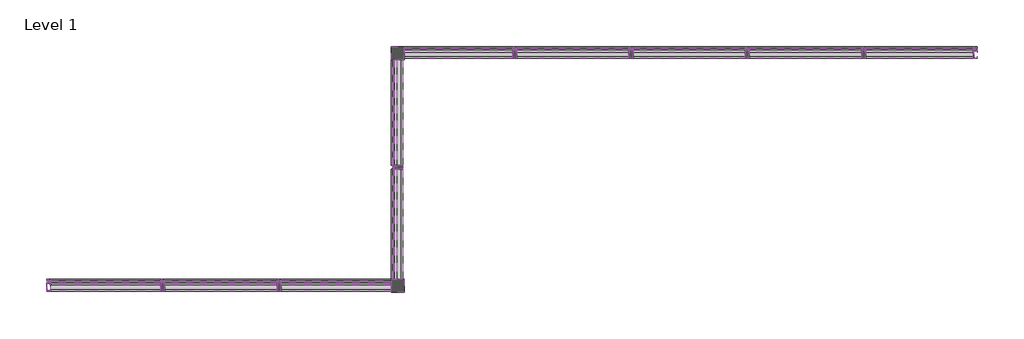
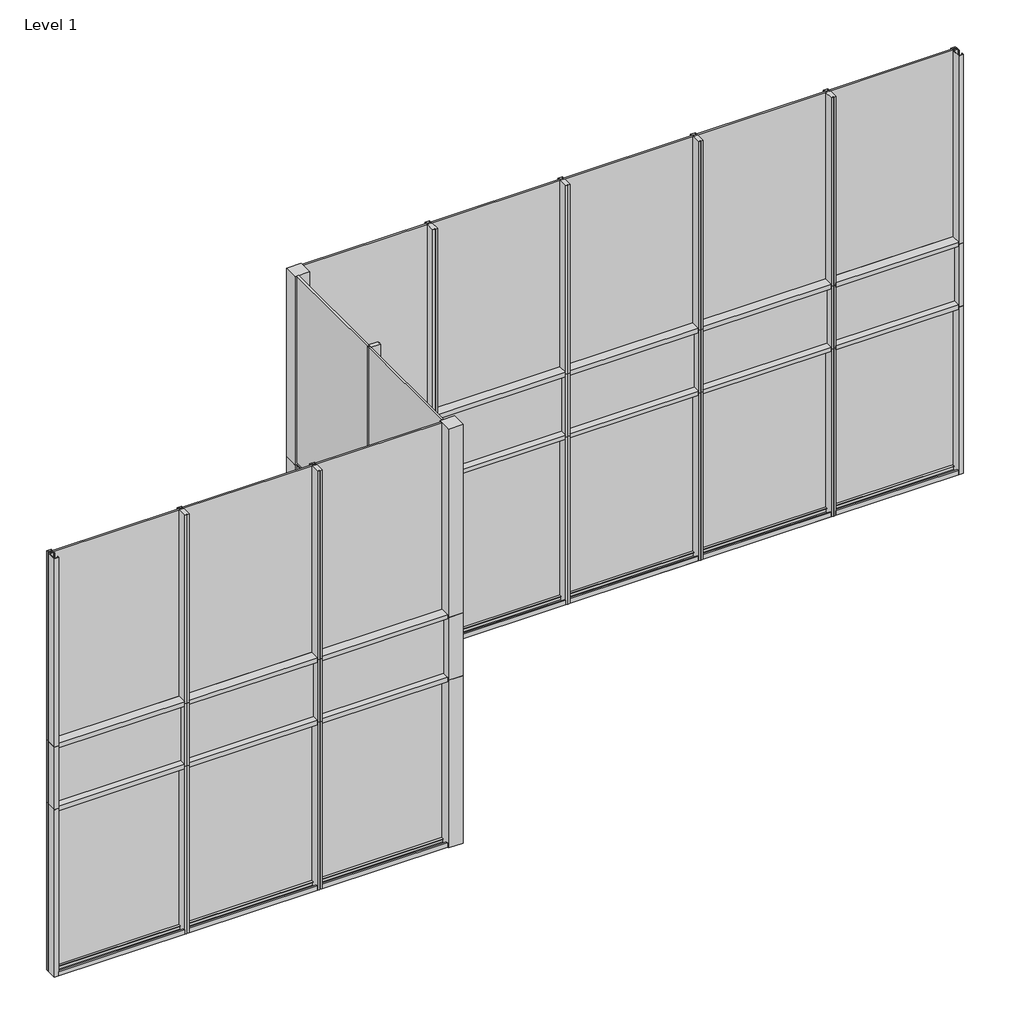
# One storey: 63 members, 30 plates.
"""IFC4 building model written with IfcOpenShell, lengths in millimetres."""

from ifc_helpers import new_model, si_unit, origin, place, context, project, spatial, transform, mapped, element, save
from components import member_aa6b0ad5, member_3b08af80, member_cb5fe1db, member_a9b10072, member_986474d6, member_d3c65e58, rectangular_mullion_captured_open_back_bbfb2c0f, rectangular_mullion_captured_open_back_cc8713bb, rectangular_mullion_captured_open_back_16a1f242, rectangular_mullion_captured_open_back_21070717, rectangular_mullion_captured_open_back_95a6e40a, rectangular_mullion_captured_open_back_a8ff4117, rectangular_mullion_captured_open_back_d715ee20, rectangular_mullion_captured_open_back_d6f5ffe3, rectangular_mullion_captured_open_back_de788541, rectangular_mullion_captured_open_back_1b6652f4, rectangular_mullion_captured_open_back_d5d2025a, rectangular_mullion_captured_open_back_45026f06, rectangular_mullion_captured_vertical_stack_a3d0fc89, rectangular_mullion_captured_vertical_stack_28bbe6cc, rectangular_mullion_captured_vertical_stack_e6b217ad, rectangular_mullion_ssg_horizontal_tube_2a7c2b05, rectangular_mullion_ssg_horizontal_tube_14686918, rectangular_mullion_ssg_horizontal_tube_24e7f777, rectangular_mullion_ssg_horizontal_tube_1dac9a05, rectangular_mullion_ssg_horizontal_tube_914c9095, rectangular_mullion_ssg_horizontal_tube_d552dfa0, rectangular_mullion_ssg_vertical_stack_41dd6339, rectangular_mullion_ssg_vertical_stack_b657639e, rectangular_mullion_ssg_vertical_stack_c531deef, system_panel_glazed_c847f2b6, system_panel_glazed_13d95e58, system_panel_glazed_7b0bdca2, system_panel_glazed_3cc53457, system_panel_glazed_d5b91e72, system_panel_glazed_41349d7e, system_panel_glazed_02823afe, system_panel_glazed_b5fa263a, system_panel_glazed_71145930, system_panel_glazed_a975786e, system_panel_glazed_e8eba25c, system_panel_glazed_5206559f, system_panel_glazed_823fbb8e, system_panel_glazed_96820018, system_panel_solid_de8e760c, system_panel_solid_f70b4fc8, system_panel_solid_5893c934, system_panel_solid_501921c6, system_panel_solid_62af6a1f, system_panel_solid_f679d4a3, system_panel_solid_14d17a46

model = new_model("IFC4")

# Units and contexts
model_context = context("Model", 3, world=origin())
ifc_project = project(units=[si_unit("LENGTHUNIT", "METRE", prefix="MILLI")], contexts=[model_context])

# Site, building, storey
site = spatial("IfcSite", under=ifc_project)
building = spatial("IfcBuilding", under=site)
storey = spatial("IfcBuildingStorey", under=building, Name="Level 1", Elevation=0.0)

# Members
placement = place(None, origin())
member_shape = member_aa6b0ad5(model_context)
element("IfcMember", 1, ObjectType="Quad Corner Mullion : 5\" x 5\" Quad Corner", at=placement, inside=storey, context=model_context, shape_type="MappedRepresentation", body=[
    mapped(member_shape, transform((3333.37735, 5420.4369427, 2438.4), x_axis=(0.0, 1.0, 0.0), y_axis=(1.0, 0.0, 0.0), z_axis=(0.0, 0.0, -1.0))),
])
member_2_shape = member_3b08af80(model_context)
element("IfcMember", 2, ObjectType="Quad Corner Mullion : 5\" x 5\" Quad Corner", at=placement, inside=storey, context=model_context, shape_type="MappedRepresentation", body=[
    mapped(member_2_shape, transform((3333.37735, 5420.4369427, 3352.8), x_axis=(0.0, 1.0, 0.0), y_axis=(1.0, 0.0, 0.0), z_axis=(0.0, 0.0, -1.0))),
])
member_3_shape = member_cb5fe1db(model_context)
element("IfcMember", 3, ObjectType="Quad Corner Mullion : 5\" x 5\" Quad Corner", at=placement, inside=storey, context=model_context, shape_type="MappedRepresentation", body=[
    mapped(member_3_shape, transform((3333.37735, 5420.4369427, 0.0), x_axis=(0.0, 1.0, 0.0), y_axis=(1.0, 0.0, 0.0), z_axis=(0.0, 0.0, -1.0))),
])
member_4_shape = member_a9b10072(model_context)
element("IfcMember", 4, ObjectType="Quad Corner Mullion : 5\" x 5\" Quad Corner", at=placement, inside=storey, context=model_context, shape_type="MappedRepresentation", body=[
    mapped(member_4_shape, transform((3333.37735, 1762.8369427, 0.0), x_axis=(1.0, 0.0, 0.0), y_axis=(0.0, -1.0, 0.0), z_axis=(0.0, 0.0, -1.0))),
])
member_5_shape = member_986474d6(model_context)
element("IfcMember", 5, ObjectType="Quad Corner Mullion : 5\" x 5\" Quad Corner", at=placement, inside=storey, context=model_context, shape_type="MappedRepresentation", body=[
    mapped(member_5_shape, transform((3333.37735, 1762.8369427, 2438.4), x_axis=(1.0, 0.0, 0.0), y_axis=(0.0, -1.0, 0.0), z_axis=(0.0, 0.0, -1.0))),
])
member_6_shape = member_d3c65e58(model_context)
element("IfcMember", 6, ObjectType="Quad Corner Mullion : 5\" x 5\" Quad Corner", at=placement, inside=storey, context=model_context, shape_type="MappedRepresentation", body=[
    mapped(member_6_shape, transform((3333.37735, 1762.8369427, 3352.8), x_axis=(1.0, 0.0, 0.0), y_axis=(0.0, -1.0, 0.0), z_axis=(0.0, 0.0, -1.0))),
])
rectangular_mullion_captured_open_back_shape = rectangular_mullion_captured_open_back_bbfb2c0f(model_context)
element("IfcMember", 7, ObjectType="Rectangular Mullion : Captured Open Back", at=placement, inside=storey, context=model_context, shape_type="MappedRepresentation", body=[
    mapped(rectangular_mullion_captured_open_back_shape, transform((12477.37735, 5420.4369427, 3352.8), x_axis=(1.0, 0.0, 0.0), y_axis=(0.0, -1.0, 0.0), z_axis=(0.0, 0.0, -1.0))),
])
rectangular_mullion_captured_open_back_2_shape = rectangular_mullion_captured_open_back_cc8713bb(model_context)
element("IfcMember", 8, ObjectType="Rectangular Mullion : Captured Open Back", at=placement, inside=storey, context=model_context, shape_type="MappedRepresentation", body=[
    mapped(rectangular_mullion_captured_open_back_2_shape, transform((12477.37735, 5420.4369427, 2438.4), x_axis=(1.0, 0.0, 0.0), y_axis=(0.0, -1.0, 0.0), z_axis=(0.0, 0.0, -1.0))),
])
rectangular_mullion_captured_open_back_3_shape = rectangular_mullion_captured_open_back_16a1f242(model_context)
element("IfcMember", 9, ObjectType="Rectangular Mullion : Captured Open Back", at=placement, inside=storey, context=model_context, shape_type="MappedRepresentation", body=[
    mapped(rectangular_mullion_captured_open_back_3_shape, transform((8892.8377322, 5420.4369427, 0.0), x_axis=(0.0, 0.0, -1.0), y_axis=(0.0, -1.0, 0.0), z_axis=(-1.0, 0.0, 0.0))),
])
element("IfcMember", 10, ObjectType="Rectangular Mullion : Captured Open Back", at=placement, inside=storey, context=model_context, shape_type="MappedRepresentation", body=[
    mapped(rectangular_mullion_captured_open_back_3_shape, transform((7064.0377322, 5420.4369427, 0.0), x_axis=(0.0, 0.0, -1.0), y_axis=(0.0, -1.0, 0.0), z_axis=(-1.0, 0.0, 0.0))),
])
element("IfcMember", 11, ObjectType="Rectangular Mullion : Captured Open Back", at=placement, inside=storey, context=model_context, shape_type="MappedRepresentation", body=[
    mapped(rectangular_mullion_captured_open_back_3_shape, transform((5235.2377322, 5420.4369427, 0.0), x_axis=(0.0, 0.0, -1.0), y_axis=(0.0, -1.0, 0.0), z_axis=(-1.0, 0.0, 0.0))),
])
element("IfcMember", 12, ObjectType="Rectangular Mullion : Captured Open Back", at=placement, inside=storey, context=model_context, shape_type="MappedRepresentation", body=[
    mapped(rectangular_mullion_captured_open_back_3_shape, transform((-292.4520837, 1762.8369427, 0.0), x_axis=(0.0, 0.0, -1.0), y_axis=(0.0, -1.0, 0.0), z_axis=(-1.0, 0.0, 0.0))),
])
rectangular_mullion_captured_open_back_4_shape = rectangular_mullion_captured_open_back_21070717(model_context)
element("IfcMember", 13, ObjectType="Rectangular Mullion : Captured Open Back", at=placement, inside=storey, context=model_context, shape_type="MappedRepresentation", body=[
    mapped(rectangular_mullion_captured_open_back_4_shape, transform((10721.6377322, 5420.4369427, 0.0), x_axis=(0.0, 0.0, -1.0), y_axis=(0.0, -1.0, 0.0), z_axis=(-1.0, 0.0, 0.0))),
])
rectangular_mullion_captured_open_back_5_shape = rectangular_mullion_captured_open_back_95a6e40a(model_context)
element("IfcMember", 14, ObjectType="Rectangular Mullion : Captured Open Back", at=placement, inside=storey, context=model_context, shape_type="MappedRepresentation", body=[
    mapped(rectangular_mullion_captured_open_back_5_shape, transform((12477.37735, 5420.4369427, 0.0), x_axis=(1.0, 0.0, 0.0), y_axis=(0.0, -1.0, 0.0), z_axis=(0.0, 0.0, -1.0))),
])
rectangular_mullion_captured_open_back_6_shape = rectangular_mullion_captured_open_back_a8ff4117(model_context)
element("IfcMember", 15, ObjectType="Rectangular Mullion : Captured Open Back", at=placement, inside=storey, context=model_context, shape_type="MappedRepresentation", body=[
    mapped(rectangular_mullion_captured_open_back_6_shape, transform((-2089.5020837, 1762.8369427, 0.0), x_axis=(0.0, 0.0, -1.0), y_axis=(0.0, -1.0, 0.0), z_axis=(-1.0, 0.0, 0.0))),
])
rectangular_mullion_captured_open_back_7_shape = rectangular_mullion_captured_open_back_d715ee20(model_context)
element("IfcMember", 16, ObjectType="Rectangular Mullion : Captured Open Back", at=placement, inside=storey, context=model_context, shape_type="MappedRepresentation", body=[
    mapped(rectangular_mullion_captured_open_back_7_shape, transform((-2153.02265, 1762.8369427, 2438.4), x_axis=(-1.0, 0.0, 0.0), y_axis=(0.0, -1.0, 0.0), z_axis=(0.0, 0.0, 1.0))),
])
rectangular_mullion_captured_open_back_8_shape = rectangular_mullion_captured_open_back_d6f5ffe3(model_context)
element("IfcMember", 17, ObjectType="Rectangular Mullion : Captured Open Back", at=placement, inside=storey, context=model_context, shape_type="MappedRepresentation", body=[
    mapped(rectangular_mullion_captured_open_back_8_shape, transform((-2153.02265, 1762.8369427, 6096.0), x_axis=(-1.0, 0.0, 0.0), y_axis=(0.0, -1.0, 0.0), z_axis=(0.0, 0.0, 1.0))),
])
rectangular_mullion_captured_open_back_9_shape = rectangular_mullion_captured_open_back_de788541(model_context)
element("IfcMember", 18, ObjectType="Rectangular Mullion : Captured Open Back", at=placement, inside=storey, context=model_context, shape_type="MappedRepresentation", body=[
    mapped(rectangular_mullion_captured_open_back_9_shape, transform((-2153.02265, 1762.8369427, 3352.8), x_axis=(-1.0, 0.0, 0.0), y_axis=(0.0, -1.0, 0.0), z_axis=(0.0, 0.0, 1.0))),
])
rectangular_mullion_captured_open_back_10_shape = rectangular_mullion_captured_open_back_1b6652f4(model_context)
element("IfcMember", 19, ObjectType="Rectangular Mullion : Captured Open Back", at=placement, inside=storey, context=model_context, shape_type="MappedRepresentation", body=[
    mapped(rectangular_mullion_captured_open_back_10_shape, transform((3466.72735, 5420.4369427, 0.0), x_axis=(0.0, 0.0, -1.0), y_axis=(0.0, -1.0, 0.0), z_axis=(-1.0, 0.0, 0.0))),
])
rectangular_mullion_captured_open_back_11_shape = rectangular_mullion_captured_open_back_d5d2025a(model_context)
element("IfcMember", 20, ObjectType="Rectangular Mullion : Captured Open Back", at=placement, inside=storey, context=model_context, shape_type="MappedRepresentation", body=[
    mapped(rectangular_mullion_captured_open_back_11_shape, transform((3333.37735, 1832.6869427, 0.0), x_axis=(0.0, 0.0, -1.0), y_axis=(1.0, 0.0, 0.0), z_axis=(0.0, -1.0, 0.0))),
])
element("IfcMember", 21, ObjectType="Rectangular Mullion : Captured Open Back", at=placement, inside=storey, context=model_context, shape_type="MappedRepresentation", body=[
    mapped(rectangular_mullion_captured_open_back_11_shape, transform((1536.3479163, 1762.8369427, 0.0), x_axis=(0.0, 0.0, -1.0), y_axis=(0.0, -1.0, 0.0), z_axis=(-1.0, 0.0, 0.0))),
])
rectangular_mullion_captured_open_back_12_shape = rectangular_mullion_captured_open_back_45026f06(model_context)
element("IfcMember", 22, ObjectType="Rectangular Mullion : Captured Open Back", at=placement, inside=storey, context=model_context, shape_type="MappedRepresentation", body=[
    mapped(rectangular_mullion_captured_open_back_12_shape, transform((3333.37735, 3623.4075089, 0.0), x_axis=(0.0, 0.0, -1.0), y_axis=(1.0, 0.0, 0.0), z_axis=(0.0, -1.0, 0.0))),
])
rectangular_mullion_captured_vertical_stack_shape = rectangular_mullion_captured_vertical_stack_a3d0fc89(model_context)
element("IfcMember", 23, ObjectType="Rectangular Mullion : Captured Vertical Stack", at=placement, inside=storey, context=model_context, shape_type="MappedRepresentation", body=[
    mapped(rectangular_mullion_captured_vertical_stack_shape, transform((10689.867166, 5420.4369427, 2438.4), x_axis=(1.0, 0.0, 0.0), y_axis=(0.0, -1.0, 0.0), z_axis=(0.0, 0.0, -1.0))),
])
element("IfcMember", 24, ObjectType="Rectangular Mullion : Captured Vertical Stack", at=placement, inside=storey, context=model_context, shape_type="MappedRepresentation", body=[
    mapped(rectangular_mullion_captured_vertical_stack_shape, transform((5203.467166, 5420.4369427, 2438.4), x_axis=(1.0, 0.0, 0.0), y_axis=(0.0, -1.0, 0.0), z_axis=(0.0, 0.0, -1.0))),
])
element("IfcMember", 25, ObjectType="Rectangular Mullion : Captured Vertical Stack", at=placement, inside=storey, context=model_context, shape_type="MappedRepresentation", body=[
    mapped(rectangular_mullion_captured_vertical_stack_shape, transform((7032.267166, 5420.4369427, 2438.4), x_axis=(1.0, 0.0, 0.0), y_axis=(0.0, -1.0, 0.0), z_axis=(0.0, 0.0, -1.0))),
])
element("IfcMember", 26, ObjectType="Rectangular Mullion : Captured Vertical Stack", at=placement, inside=storey, context=model_context, shape_type="MappedRepresentation", body=[
    mapped(rectangular_mullion_captured_vertical_stack_shape, transform((8861.067166, 5420.4369427, 2438.4), x_axis=(1.0, 0.0, 0.0), y_axis=(0.0, -1.0, 0.0), z_axis=(0.0, 0.0, -1.0))),
])
element("IfcMember", 27, ObjectType="Rectangular Mullion : Captured Vertical Stack", at=placement, inside=storey, context=model_context, shape_type="MappedRepresentation", body=[
    mapped(rectangular_mullion_captured_vertical_stack_shape, transform((1504.57735, 1762.8369427, 2438.4), x_axis=(1.0, 0.0, 0.0), y_axis=(0.0, -1.0, 0.0), z_axis=(0.0, 0.0, -1.0))),
])
element("IfcMember", 28, ObjectType="Rectangular Mullion : Captured Vertical Stack", at=placement, inside=storey, context=model_context, shape_type="MappedRepresentation", body=[
    mapped(rectangular_mullion_captured_vertical_stack_shape, transform((-324.22265, 1762.8369427, 2438.4), x_axis=(1.0, 0.0, 0.0), y_axis=(0.0, -1.0, 0.0), z_axis=(0.0, 0.0, -1.0))),
])
rectangular_mullion_captured_vertical_stack_2_shape = rectangular_mullion_captured_vertical_stack_28bbe6cc(model_context)
element("IfcMember", 29, ObjectType="Rectangular Mullion : Captured Vertical Stack", at=placement, inside=storey, context=model_context, shape_type="MappedRepresentation", body=[
    mapped(rectangular_mullion_captured_vertical_stack_2_shape, transform((10689.867166, 5420.4369427, 3352.8), x_axis=(1.0, 0.0, 0.0), y_axis=(0.0, -1.0, 0.0), z_axis=(0.0, 0.0, -1.0))),
])
element("IfcMember", 30, ObjectType="Rectangular Mullion : Captured Vertical Stack", at=placement, inside=storey, context=model_context, shape_type="MappedRepresentation", body=[
    mapped(rectangular_mullion_captured_vertical_stack_2_shape, transform((5203.467166, 5420.4369427, 3352.8), x_axis=(1.0, 0.0, 0.0), y_axis=(0.0, -1.0, 0.0), z_axis=(0.0, 0.0, -1.0))),
])
element("IfcMember", 31, ObjectType="Rectangular Mullion : Captured Vertical Stack", at=placement, inside=storey, context=model_context, shape_type="MappedRepresentation", body=[
    mapped(rectangular_mullion_captured_vertical_stack_2_shape, transform((7032.267166, 5420.4369427, 3352.8), x_axis=(1.0, 0.0, 0.0), y_axis=(0.0, -1.0, 0.0), z_axis=(0.0, 0.0, -1.0))),
])
element("IfcMember", 32, ObjectType="Rectangular Mullion : Captured Vertical Stack", at=placement, inside=storey, context=model_context, shape_type="MappedRepresentation", body=[
    mapped(rectangular_mullion_captured_vertical_stack_2_shape, transform((8861.067166, 5420.4369427, 3352.8), x_axis=(1.0, 0.0, 0.0), y_axis=(0.0, -1.0, 0.0), z_axis=(0.0, 0.0, -1.0))),
])
element("IfcMember", 33, ObjectType="Rectangular Mullion : Captured Vertical Stack", at=placement, inside=storey, context=model_context, shape_type="MappedRepresentation", body=[
    mapped(rectangular_mullion_captured_vertical_stack_2_shape, transform((1504.57735, 1762.8369427, 3352.8), x_axis=(1.0, 0.0, 0.0), y_axis=(0.0, -1.0, 0.0), z_axis=(0.0, 0.0, -1.0))),
])
element("IfcMember", 34, ObjectType="Rectangular Mullion : Captured Vertical Stack", at=placement, inside=storey, context=model_context, shape_type="MappedRepresentation", body=[
    mapped(rectangular_mullion_captured_vertical_stack_2_shape, transform((-324.22265, 1762.8369427, 3352.8), x_axis=(1.0, 0.0, 0.0), y_axis=(0.0, -1.0, 0.0), z_axis=(0.0, 0.0, -1.0))),
])
rectangular_mullion_captured_vertical_stack_3_shape = rectangular_mullion_captured_vertical_stack_e6b217ad(model_context)
element("IfcMember", 35, ObjectType="Rectangular Mullion : Captured Vertical Stack", at=placement, inside=storey, context=model_context, shape_type="MappedRepresentation", body=[
    mapped(rectangular_mullion_captured_vertical_stack_3_shape, transform((10689.867166, 5420.4369427, 0.0), x_axis=(1.0, 0.0, 0.0), y_axis=(0.0, -1.0, 0.0), z_axis=(0.0, 0.0, -1.0))),
])
element("IfcMember", 36, ObjectType="Rectangular Mullion : Captured Vertical Stack", at=placement, inside=storey, context=model_context, shape_type="MappedRepresentation", body=[
    mapped(rectangular_mullion_captured_vertical_stack_3_shape, transform((5203.467166, 5420.4369427, 0.0), x_axis=(1.0, 0.0, 0.0), y_axis=(0.0, -1.0, 0.0), z_axis=(0.0, 0.0, -1.0))),
])
element("IfcMember", 37, ObjectType="Rectangular Mullion : Captured Vertical Stack", at=placement, inside=storey, context=model_context, shape_type="MappedRepresentation", body=[
    mapped(rectangular_mullion_captured_vertical_stack_3_shape, transform((7032.267166, 5420.4369427, 0.0), x_axis=(1.0, 0.0, 0.0), y_axis=(0.0, -1.0, 0.0), z_axis=(0.0, 0.0, -1.0))),
])
element("IfcMember", 38, ObjectType="Rectangular Mullion : Captured Vertical Stack", at=placement, inside=storey, context=model_context, shape_type="MappedRepresentation", body=[
    mapped(rectangular_mullion_captured_vertical_stack_3_shape, transform((8861.067166, 5420.4369427, 0.0), x_axis=(1.0, 0.0, 0.0), y_axis=(0.0, -1.0, 0.0), z_axis=(0.0, 0.0, -1.0))),
])
element("IfcMember", 39, ObjectType="Rectangular Mullion : Captured Vertical Stack", at=placement, inside=storey, context=model_context, shape_type="MappedRepresentation", body=[
    mapped(rectangular_mullion_captured_vertical_stack_3_shape, transform((1504.57735, 1762.8369427, 0.0), x_axis=(1.0, 0.0, 0.0), y_axis=(0.0, -1.0, 0.0), z_axis=(0.0, 0.0, -1.0))),
])
element("IfcMember", 40, ObjectType="Rectangular Mullion : Captured Vertical Stack", at=placement, inside=storey, context=model_context, shape_type="MappedRepresentation", body=[
    mapped(rectangular_mullion_captured_vertical_stack_3_shape, transform((-324.22265, 1762.8369427, 0.0), x_axis=(1.0, 0.0, 0.0), y_axis=(0.0, -1.0, 0.0), z_axis=(0.0, 0.0, -1.0))),
])
rectangular_mullion_ssg_horizontal_tube_shape = rectangular_mullion_ssg_horizontal_tube_2a7c2b05(model_context)
element("IfcMember", 41, ObjectType="Rectangular Mullion : SSG Horizontal Tube", at=placement, inside=storey, context=model_context, shape_type="MappedRepresentation", body=[
    mapped(rectangular_mullion_ssg_horizontal_tube_shape, transform((8829.317166, 5420.4369427, 2438.4), x_axis=(0.0, 0.0, 1.0), y_axis=(0.0, -1.0, 0.0), z_axis=(1.0, 0.0, 0.0))),
])
element("IfcMember", 42, ObjectType="Rectangular Mullion : SSG Horizontal Tube", at=placement, inside=storey, context=model_context, shape_type="MappedRepresentation", body=[
    mapped(rectangular_mullion_ssg_horizontal_tube_shape, transform((7000.517166, 5420.4369427, 2438.4), x_axis=(0.0, 0.0, 1.0), y_axis=(0.0, -1.0, 0.0), z_axis=(1.0, 0.0, 0.0))),
])
element("IfcMember", 43, ObjectType="Rectangular Mullion : SSG Horizontal Tube", at=placement, inside=storey, context=model_context, shape_type="MappedRepresentation", body=[
    mapped(rectangular_mullion_ssg_horizontal_tube_shape, transform((10658.117166, 5420.4369427, 2438.4), x_axis=(0.0, 0.0, 1.0), y_axis=(0.0, -1.0, 0.0), z_axis=(1.0, 0.0, 0.0))),
])
element("IfcMember", 44, ObjectType="Rectangular Mullion : SSG Horizontal Tube", at=placement, inside=storey, context=model_context, shape_type="MappedRepresentation", body=[
    mapped(rectangular_mullion_ssg_horizontal_tube_shape, transform((7000.517166, 5420.4369427, 3352.8), x_axis=(0.0, 0.0, 1.0), y_axis=(0.0, -1.0, 0.0), z_axis=(1.0, 0.0, 0.0))),
])
element("IfcMember", 45, ObjectType="Rectangular Mullion : SSG Horizontal Tube", at=placement, inside=storey, context=model_context, shape_type="MappedRepresentation", body=[
    mapped(rectangular_mullion_ssg_horizontal_tube_shape, transform((10658.117166, 5420.4369427, 3352.8), x_axis=(0.0, 0.0, 1.0), y_axis=(0.0, -1.0, 0.0), z_axis=(1.0, 0.0, 0.0))),
])
element("IfcMember", 46, ObjectType="Rectangular Mullion : SSG Horizontal Tube", at=placement, inside=storey, context=model_context, shape_type="MappedRepresentation", body=[
    mapped(rectangular_mullion_ssg_horizontal_tube_shape, transform((8829.317166, 5420.4369427, 3352.8), x_axis=(0.0, 0.0, 1.0), y_axis=(0.0, -1.0, 0.0), z_axis=(1.0, 0.0, 0.0))),
])
element("IfcMember", 47, ObjectType="Rectangular Mullion : SSG Horizontal Tube", at=placement, inside=storey, context=model_context, shape_type="MappedRepresentation", body=[
    mapped(rectangular_mullion_ssg_horizontal_tube_shape, transform((1472.82735, 1762.8369427, 2438.4), x_axis=(0.0, 0.0, 1.0), y_axis=(0.0, -1.0, 0.0), z_axis=(1.0, 0.0, 0.0))),
])
element("IfcMember", 48, ObjectType="Rectangular Mullion : SSG Horizontal Tube", at=placement, inside=storey, context=model_context, shape_type="MappedRepresentation", body=[
    mapped(rectangular_mullion_ssg_horizontal_tube_shape, transform((1472.82735, 1762.8369427, 3352.8), x_axis=(0.0, 0.0, 1.0), y_axis=(0.0, -1.0, 0.0), z_axis=(1.0, 0.0, 0.0))),
])
rectangular_mullion_ssg_horizontal_tube_2_shape = rectangular_mullion_ssg_horizontal_tube_14686918(model_context)
element("IfcMember", 49, ObjectType="Rectangular Mullion : SSG Horizontal Tube", at=placement, inside=storey, context=model_context, shape_type="MappedRepresentation", body=[
    mapped(rectangular_mullion_ssg_horizontal_tube_2_shape, transform((12413.8567838, 5420.4369427, 2438.4), x_axis=(0.0, 0.0, 1.0), y_axis=(0.0, -1.0, 0.0), z_axis=(1.0, 0.0, 0.0))),
])
element("IfcMember", 50, ObjectType="Rectangular Mullion : SSG Horizontal Tube", at=placement, inside=storey, context=model_context, shape_type="MappedRepresentation", body=[
    mapped(rectangular_mullion_ssg_horizontal_tube_2_shape, transform((12413.8567838, 5420.4369427, 3352.8), x_axis=(0.0, 0.0, 1.0), y_axis=(0.0, -1.0, 0.0), z_axis=(1.0, 0.0, 0.0))),
])
rectangular_mullion_ssg_horizontal_tube_3_shape = rectangular_mullion_ssg_horizontal_tube_24e7f777(model_context)
element("IfcMember", 51, ObjectType="Rectangular Mullion : SSG Horizontal Tube", at=placement, inside=storey, context=model_context, shape_type="MappedRepresentation", body=[
    mapped(rectangular_mullion_ssg_horizontal_tube_3_shape, transform((-355.97265, 1762.8369427, 2438.4), x_axis=(0.0, 0.0, 1.0), y_axis=(0.0, -1.0, 0.0), z_axis=(1.0, 0.0, 0.0))),
])
element("IfcMember", 52, ObjectType="Rectangular Mullion : SSG Horizontal Tube", at=placement, inside=storey, context=model_context, shape_type="MappedRepresentation", body=[
    mapped(rectangular_mullion_ssg_horizontal_tube_3_shape, transform((-355.97265, 1762.8369427, 3352.8), x_axis=(0.0, 0.0, 1.0), y_axis=(0.0, -1.0, 0.0), z_axis=(1.0, 0.0, 0.0))),
])
rectangular_mullion_ssg_horizontal_tube_4_shape = rectangular_mullion_ssg_horizontal_tube_1dac9a05(model_context)
element("IfcMember", 53, ObjectType="Rectangular Mullion : SSG Horizontal Tube", at=placement, inside=storey, context=model_context, shape_type="MappedRepresentation", body=[
    mapped(rectangular_mullion_ssg_horizontal_tube_4_shape, transform((5171.717166, 5420.4369427, 2438.4), x_axis=(0.0, 0.0, 1.0), y_axis=(0.0, -1.0, 0.0), z_axis=(1.0, 0.0, 0.0))),
])
element("IfcMember", 54, ObjectType="Rectangular Mullion : SSG Horizontal Tube", at=placement, inside=storey, context=model_context, shape_type="MappedRepresentation", body=[
    mapped(rectangular_mullion_ssg_horizontal_tube_4_shape, transform((5171.717166, 5420.4369427, 3352.8), x_axis=(0.0, 0.0, 1.0), y_axis=(0.0, -1.0, 0.0), z_axis=(1.0, 0.0, 0.0))),
])
rectangular_mullion_ssg_horizontal_tube_5_shape = rectangular_mullion_ssg_horizontal_tube_914c9095(model_context)
element("IfcMember", 55, ObjectType="Rectangular Mullion : SSG Horizontal Tube", at=placement, inside=storey, context=model_context, shape_type="MappedRepresentation", body=[
    mapped(rectangular_mullion_ssg_horizontal_tube_5_shape, transform((3333.37735, 3559.8869427, 3352.8), x_axis=(0.0, 0.0, 1.0), y_axis=(1.0, 0.0, 0.0), z_axis=(0.0, 1.0, 0.0))),
])
element("IfcMember", 56, ObjectType="Rectangular Mullion : SSG Horizontal Tube", at=placement, inside=storey, context=model_context, shape_type="MappedRepresentation", body=[
    mapped(rectangular_mullion_ssg_horizontal_tube_5_shape, transform((3333.37735, 3559.8869427, 2438.4), x_axis=(0.0, 0.0, 1.0), y_axis=(1.0, 0.0, 0.0), z_axis=(0.0, 1.0, 0.0))),
])
element("IfcMember", 57, ObjectType="Rectangular Mullion : SSG Horizontal Tube", at=placement, inside=storey, context=model_context, shape_type="MappedRepresentation", body=[
    mapped(rectangular_mullion_ssg_horizontal_tube_5_shape, transform((3263.52735, 1762.8369427, 2438.4), x_axis=(0.0, 0.0, 1.0), y_axis=(0.0, -1.0, 0.0), z_axis=(1.0, 0.0, 0.0))),
])
element("IfcMember", 58, ObjectType="Rectangular Mullion : SSG Horizontal Tube", at=placement, inside=storey, context=model_context, shape_type="MappedRepresentation", body=[
    mapped(rectangular_mullion_ssg_horizontal_tube_5_shape, transform((3263.52735, 1762.8369427, 3352.8), x_axis=(0.0, 0.0, 1.0), y_axis=(0.0, -1.0, 0.0), z_axis=(1.0, 0.0, 0.0))),
])
rectangular_mullion_ssg_horizontal_tube_6_shape = rectangular_mullion_ssg_horizontal_tube_d552dfa0(model_context)
element("IfcMember", 59, ObjectType="Rectangular Mullion : SSG Horizontal Tube", at=placement, inside=storey, context=model_context, shape_type="MappedRepresentation", body=[
    mapped(rectangular_mullion_ssg_horizontal_tube_6_shape, transform((3333.37735, 5287.0869427, 3352.8), x_axis=(0.0, 0.0, 1.0), y_axis=(1.0, 0.0, 0.0), z_axis=(0.0, 1.0, 0.0))),
])
element("IfcMember", 60, ObjectType="Rectangular Mullion : SSG Horizontal Tube", at=placement, inside=storey, context=model_context, shape_type="MappedRepresentation", body=[
    mapped(rectangular_mullion_ssg_horizontal_tube_6_shape, transform((3333.37735, 5287.0869427, 2438.4), x_axis=(0.0, 0.0, 1.0), y_axis=(1.0, 0.0, 0.0), z_axis=(0.0, 1.0, 0.0))),
])
rectangular_mullion_ssg_vertical_stack_shape = rectangular_mullion_ssg_vertical_stack_41dd6339(model_context)
element("IfcMember", 61, ObjectType="Rectangular Mullion : SSG Vertical Stack", at=placement, inside=storey, context=model_context, shape_type="MappedRepresentation", body=[
    mapped(rectangular_mullion_ssg_vertical_stack_shape, transform((3333.37735, 3591.6369427, 2438.4), x_axis=(0.0, 1.0, 0.0), y_axis=(1.0, 0.0, 0.0), z_axis=(0.0, 0.0, -1.0))),
])
rectangular_mullion_ssg_vertical_stack_2_shape = rectangular_mullion_ssg_vertical_stack_b657639e(model_context)
element("IfcMember", 62, ObjectType="Rectangular Mullion : SSG Vertical Stack", at=placement, inside=storey, context=model_context, shape_type="MappedRepresentation", body=[
    mapped(rectangular_mullion_ssg_vertical_stack_2_shape, transform((3333.37735, 3591.6369427, 3352.8), x_axis=(0.0, 1.0, 0.0), y_axis=(1.0, 0.0, 0.0), z_axis=(0.0, 0.0, -1.0))),
])
rectangular_mullion_ssg_vertical_stack_3_shape = rectangular_mullion_ssg_vertical_stack_c531deef(model_context)
element("IfcMember", 63, ObjectType="Rectangular Mullion : SSG Vertical Stack", at=placement, inside=storey, context=model_context, shape_type="MappedRepresentation", body=[
    mapped(rectangular_mullion_ssg_vertical_stack_3_shape, transform((3333.37735, 3591.6369427, 0.0), x_axis=(0.0, 1.0, 0.0), y_axis=(1.0, 0.0, 0.0), z_axis=(0.0, 0.0, -1.0))),
])

# Plates
system_panel_glazed_shape = system_panel_glazed_c847f2b6(model_context)
element("IfcPlate", 64, ObjectType="System Panel : Glazed", at=placement, inside=storey, context=model_context, shape_type="MappedRepresentation", body=[
    mapped(system_panel_glazed_shape, transform((3333.37735, 2707.404288, 54.1413824), x_axis=(0.0, 1.0, 0.0), y_axis=(-1.0, 0.0, 0.0), z_axis=(0.0, 0.0, 1.0))),
])
system_panel_glazed_2_shape = system_panel_glazed_13d95e58(model_context)
element("IfcPlate", 65, ObjectType="System Panel : Glazed", at=placement, inside=storey, context=model_context, shape_type="MappedRepresentation", body=[
    mapped(system_panel_glazed_2_shape, transform((3333.37735, 4444.1292897, 54.1413824), x_axis=(0.0, 1.0, 0.0), y_axis=(-1.0, 0.0, 0.0), z_axis=(0.0, 0.0, 1.0))),
])
system_panel_glazed_3_shape = system_panel_glazed_7b0bdca2(model_context)
element("IfcPlate", 66, ObjectType="System Panel : Glazed", at=placement, inside=storey, context=model_context, shape_type="MappedRepresentation", body=[
    mapped(system_panel_glazed_3_shape, transform((-1222.7576163, 1762.8369427, 54.1413824), x_axis=(1.0, 0.0, 0.0), y_axis=(0.0, 1.0, 0.0), z_axis=(0.0, 0.0, 1.0))),
])
system_panel_glazed_4_shape = system_panel_glazed_3cc53457(model_context)
element("IfcPlate", 67, ObjectType="System Panel : Glazed", at=placement, inside=storey, context=model_context, shape_type="MappedRepresentation", body=[
    mapped(system_panel_glazed_4_shape, transform((4323.8916004, 5420.4369427, 54.1413824), x_axis=(1.0, 0.0, 0.0), y_axis=(0.0, 1.0, 0.0), z_axis=(0.0, 0.0, 1.0))),
])
system_panel_glazed_5_shape = system_panel_glazed_d5b91e72(model_context)
element("IfcPlate", 68, ObjectType="System Panel : Glazed", at=placement, inside=storey, context=model_context, shape_type="MappedRepresentation", body=[
    mapped(system_panel_glazed_5_shape, transform((9775.4571996, 5420.4369427, 54.1413824), x_axis=(1.0, 0.0, 0.0), y_axis=(0.0, 1.0, 0.0), z_axis=(0.0, 0.0, 1.0))),
])
element("IfcPlate", 69, ObjectType="System Panel : Glazed", at=placement, inside=storey, context=model_context, shape_type="MappedRepresentation", body=[
    mapped(system_panel_glazed_5_shape, transform((7946.6571996, 5420.4369427, 54.1413824), x_axis=(1.0, 0.0, 0.0), y_axis=(0.0, 1.0, 0.0), z_axis=(0.0, 0.0, 1.0))),
])
element("IfcPlate", 70, ObjectType="System Panel : Glazed", at=placement, inside=storey, context=model_context, shape_type="MappedRepresentation", body=[
    mapped(system_panel_glazed_5_shape, transform((6117.8571996, 5420.4369427, 54.1413824), x_axis=(1.0, 0.0, 0.0), y_axis=(0.0, 1.0, 0.0), z_axis=(0.0, 0.0, 1.0))),
])
element("IfcPlate", 71, ObjectType="System Panel : Glazed", at=placement, inside=storey, context=model_context, shape_type="MappedRepresentation", body=[
    mapped(system_panel_glazed_5_shape, transform((590.1673837, 1762.8369427, 54.1413824), x_axis=(1.0, 0.0, 0.0), y_axis=(0.0, 1.0, 0.0), z_axis=(0.0, 0.0, 1.0))),
])
system_panel_glazed_6_shape = system_panel_glazed_41349d7e(model_context)
element("IfcPlate", 72, ObjectType="System Panel : Glazed", at=placement, inside=storey, context=model_context, shape_type="MappedRepresentation", body=[
    mapped(system_panel_glazed_6_shape, transform((2395.2480412, 1762.8369427, 54.1413824), x_axis=(1.0, 0.0, 0.0), y_axis=(0.0, 1.0, 0.0), z_axis=(0.0, 0.0, 1.0))),
])
system_panel_glazed_7_shape = system_panel_glazed_02823afe(model_context)
element("IfcPlate", 73, ObjectType="System Panel : Glazed", at=placement, inside=storey, context=model_context, shape_type="MappedRepresentation", body=[
    mapped(system_panel_glazed_7_shape, transform((11567.7270085, 5420.4369427, 54.1413824), x_axis=(1.0, 0.0, 0.0), y_axis=(0.0, 1.0, 0.0), z_axis=(0.0, 0.0, 1.0))),
])
system_panel_glazed_8_shape = system_panel_glazed_b5fa263a(model_context)
element("IfcPlate", 74, ObjectType="System Panel : Glazed", at=placement, inside=storey, context=model_context, shape_type="MappedRepresentation", body=[
    mapped(system_panel_glazed_8_shape, transform((4323.8916004, 5420.4369427, 3384.5705663), x_axis=(1.0, 0.0, 0.0), y_axis=(0.0, 1.0, 0.0), z_axis=(0.0, 0.0, 1.0))),
])
system_panel_glazed_9_shape = system_panel_glazed_71145930(model_context)
element("IfcPlate", 75, ObjectType="System Panel : Glazed", at=placement, inside=storey, context=model_context, shape_type="MappedRepresentation", body=[
    mapped(system_panel_glazed_9_shape, transform((6117.8571996, 5420.4369427, 3384.5705663), x_axis=(1.0, 0.0, 0.0), y_axis=(0.0, 1.0, 0.0), z_axis=(0.0, 0.0, 1.0))),
])
element("IfcPlate", 76, ObjectType="System Panel : Glazed", at=placement, inside=storey, context=model_context, shape_type="MappedRepresentation", body=[
    mapped(system_panel_glazed_9_shape, transform((7946.6571996, 5420.4369427, 3384.5705663), x_axis=(1.0, 0.0, 0.0), y_axis=(0.0, 1.0, 0.0), z_axis=(0.0, 0.0, 1.0))),
])
element("IfcPlate", 77, ObjectType="System Panel : Glazed", at=placement, inside=storey, context=model_context, shape_type="MappedRepresentation", body=[
    mapped(system_panel_glazed_9_shape, transform((9775.4571996, 5420.4369427, 3384.5705663), x_axis=(1.0, 0.0, 0.0), y_axis=(0.0, 1.0, 0.0), z_axis=(0.0, 0.0, 1.0))),
])
element("IfcPlate", 78, ObjectType="System Panel : Glazed", at=placement, inside=storey, context=model_context, shape_type="MappedRepresentation", body=[
    mapped(system_panel_glazed_9_shape, transform((590.1673837, 1762.8369427, 3384.5705663), x_axis=(1.0, 0.0, 0.0), y_axis=(0.0, 1.0, 0.0), z_axis=(0.0, 0.0, 1.0))),
])
system_panel_glazed_10_shape = system_panel_glazed_a975786e(model_context)
element("IfcPlate", 79, ObjectType="System Panel : Glazed", at=placement, inside=storey, context=model_context, shape_type="MappedRepresentation", body=[
    mapped(system_panel_glazed_10_shape, transform((11567.7270085, 5420.4369427, 3384.5705663), x_axis=(1.0, 0.0, 0.0), y_axis=(0.0, 1.0, 0.0), z_axis=(0.0, 0.0, 1.0))),
])
system_panel_glazed_11_shape = system_panel_glazed_e8eba25c(model_context)
element("IfcPlate", 80, ObjectType="System Panel : Glazed", at=placement, inside=storey, context=model_context, shape_type="MappedRepresentation", body=[
    mapped(system_panel_glazed_11_shape, transform((3333.37735, 2707.404288, 3384.5705663), x_axis=(0.0, 1.0, 0.0), y_axis=(-1.0, 0.0, 0.0), z_axis=(0.0, 0.0, 1.0))),
])
system_panel_glazed_12_shape = system_panel_glazed_5206559f(model_context)
element("IfcPlate", 81, ObjectType="System Panel : Glazed", at=placement, inside=storey, context=model_context, shape_type="MappedRepresentation", body=[
    mapped(system_panel_glazed_12_shape, transform((3333.37735, 4444.1292897, 3384.5705663), x_axis=(0.0, 1.0, 0.0), y_axis=(-1.0, 0.0, 0.0), z_axis=(0.0, 0.0, 1.0))),
])
system_panel_glazed_13_shape = system_panel_glazed_823fbb8e(model_context)
element("IfcPlate", 82, ObjectType="System Panel : Glazed", at=placement, inside=storey, context=model_context, shape_type="MappedRepresentation", body=[
    mapped(system_panel_glazed_13_shape, transform((-1222.7576163, 1762.8369427, 3384.5705663), x_axis=(1.0, 0.0, 0.0), y_axis=(0.0, 1.0, 0.0), z_axis=(0.0, 0.0, 1.0))),
])
system_panel_glazed_14_shape = system_panel_glazed_96820018(model_context)
element("IfcPlate", 83, ObjectType="System Panel : Glazed", at=placement, inside=storey, context=model_context, shape_type="MappedRepresentation", body=[
    mapped(system_panel_glazed_14_shape, transform((2395.2480412, 1762.8369427, 3384.5705663), x_axis=(1.0, 0.0, 0.0), y_axis=(0.0, 1.0, 0.0), z_axis=(0.0, 0.0, 1.0))),
])
system_panel_solid_shape = system_panel_solid_de8e760c(model_context)
element("IfcPlate", 84, ObjectType="System Panel : Solid", at=placement, inside=storey, context=model_context, shape_type="MappedRepresentation", body=[
    mapped(system_panel_solid_shape, transform((4323.8916004, 5420.4369427, 2470.1705663), x_axis=(1.0, 0.0, 0.0), y_axis=(0.0, 1.0, 0.0), z_axis=(0.0, 0.0, 1.0))),
])
system_panel_solid_2_shape = system_panel_solid_f70b4fc8(model_context)
element("IfcPlate", 85, ObjectType="System Panel : Solid", at=placement, inside=storey, context=model_context, shape_type="MappedRepresentation", body=[
    mapped(system_panel_solid_2_shape, transform((6117.8571996, 5420.4369427, 2470.1705663), x_axis=(1.0, 0.0, 0.0), y_axis=(0.0, 1.0, 0.0), z_axis=(0.0, 0.0, 1.0))),
])
element("IfcPlate", 86, ObjectType="System Panel : Solid", at=placement, inside=storey, context=model_context, shape_type="MappedRepresentation", body=[
    mapped(system_panel_solid_2_shape, transform((7946.6571996, 5420.4369427, 2470.1705663), x_axis=(1.0, 0.0, 0.0), y_axis=(0.0, 1.0, 0.0), z_axis=(0.0, 0.0, 1.0))),
])
element("IfcPlate", 87, ObjectType="System Panel : Solid", at=placement, inside=storey, context=model_context, shape_type="MappedRepresentation", body=[
    mapped(system_panel_solid_2_shape, transform((9775.4571996, 5420.4369427, 2470.1705663), x_axis=(1.0, 0.0, 0.0), y_axis=(0.0, 1.0, 0.0), z_axis=(0.0, 0.0, 1.0))),
])
element("IfcPlate", 88, ObjectType="System Panel : Solid", at=placement, inside=storey, context=model_context, shape_type="MappedRepresentation", body=[
    mapped(system_panel_solid_2_shape, transform((590.1673837, 1762.8369427, 2470.1705663), x_axis=(1.0, 0.0, 0.0), y_axis=(0.0, 1.0, 0.0), z_axis=(0.0, 0.0, 1.0))),
])
system_panel_solid_3_shape = system_panel_solid_5893c934(model_context)
element("IfcPlate", 89, ObjectType="System Panel : Solid", at=placement, inside=storey, context=model_context, shape_type="MappedRepresentation", body=[
    mapped(system_panel_solid_3_shape, transform((11567.7270085, 5420.4369427, 2470.1705663), x_axis=(1.0, 0.0, 0.0), y_axis=(0.0, 1.0, 0.0), z_axis=(0.0, 0.0, 1.0))),
])
system_panel_solid_4_shape = system_panel_solid_501921c6(model_context)
element("IfcPlate", 90, ObjectType="System Panel : Solid", at=placement, inside=storey, context=model_context, shape_type="MappedRepresentation", body=[
    mapped(system_panel_solid_4_shape, transform((3333.37735, 2707.404288, 2470.1705663), x_axis=(0.0, 1.0, 0.0), y_axis=(-1.0, 0.0, 0.0), z_axis=(0.0, 0.0, 1.0))),
])
system_panel_solid_5_shape = system_panel_solid_62af6a1f(model_context)
element("IfcPlate", 91, ObjectType="System Panel : Solid", at=placement, inside=storey, context=model_context, shape_type="MappedRepresentation", body=[
    mapped(system_panel_solid_5_shape, transform((3333.37735, 4444.1292897, 2470.1705663), x_axis=(0.0, 1.0, 0.0), y_axis=(-1.0, 0.0, 0.0), z_axis=(0.0, 0.0, 1.0))),
])
system_panel_solid_6_shape = system_panel_solid_f679d4a3(model_context)
element("IfcPlate", 92, ObjectType="System Panel : Solid", at=placement, inside=storey, context=model_context, shape_type="MappedRepresentation", body=[
    mapped(system_panel_solid_6_shape, transform((-1222.7576163, 1762.8369427, 2470.1705663), x_axis=(1.0, 0.0, 0.0), y_axis=(0.0, 1.0, 0.0), z_axis=(0.0, 0.0, 1.0))),
])
system_panel_solid_7_shape = system_panel_solid_14d17a46(model_context)
element("IfcPlate", 93, ObjectType="System Panel : Solid", at=placement, inside=storey, context=model_context, shape_type="MappedRepresentation", body=[
    mapped(system_panel_solid_7_shape, transform((2395.2480412, 1762.8369427, 2470.1705663), x_axis=(1.0, 0.0, 0.0), y_axis=(0.0, 1.0, 0.0), z_axis=(0.0, 0.0, 1.0))),
])

save(model, "model.ifc")
